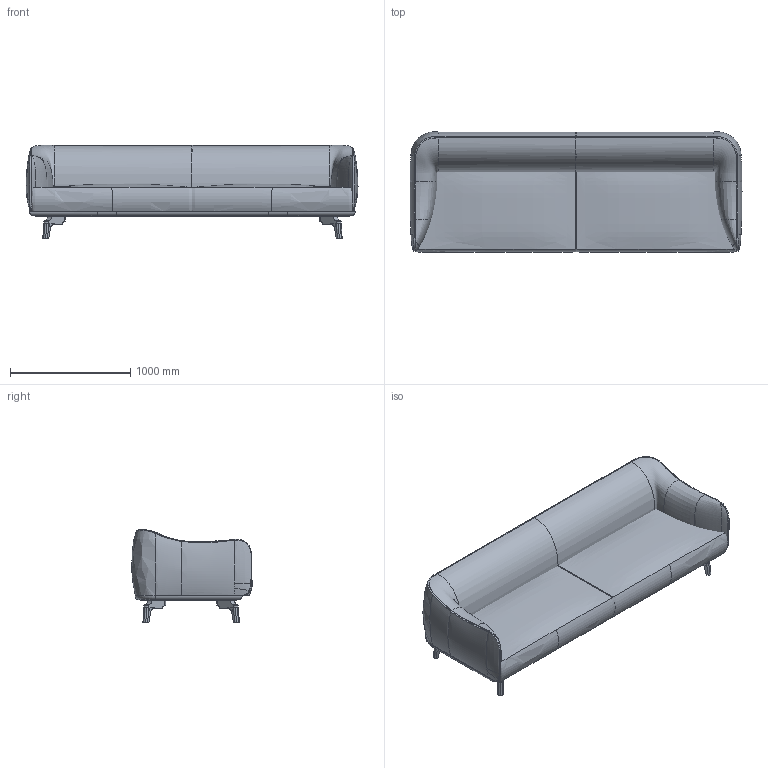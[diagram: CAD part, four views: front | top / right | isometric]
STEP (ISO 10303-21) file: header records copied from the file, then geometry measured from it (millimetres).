
FILE_DESCRIPTION(/* description */ (''),/* implementation_level */ '2;1');
FILE_NAME(/* name */ 'C:\Users\ronnie\Desktop\59030 DRIVE cm278.stp',/* time_stamp */ '2016-07-25T10:26:14+02:00',/* author */ ('ronnie'),/* organization */ (''),/* preprocessor_version */ 'ST-DEVELOPER v16.5',/* originating_system */ 'AutoCAD Mechanical',/* authorisation */ '');
FILE_SCHEMA (('AUTOMOTIVE_DESIGN { 1 0 10303 214 3 1 1 }'));
Length unit declared in the file: millimetre
Products named in the file (2): Product; curve_set_0
Assembly tree (1 placements, depth 2):
  Product
    curve_set_0
Bounding box: 2760.51 x 1001.04 x 774.25 mm (x, y, z)
Volume: 468397562 mm3; surface area: 16923981.4 mm2
Topology: 12 solids, 18 shells, 444 faces, 1071 edges, 667 vertices
Faces by surface type: bspline 158, cylinder 142, plane 130, torus 8, cone 6
Entity records: 78372 total; most frequent: CARTESIAN_POINT 68741, ORIENTED_EDGE 2060, DIRECTION 1714, EDGE_CURVE 1060, VERTEX_POINT 666, AXIS2_PLACEMENT_3D 623, EDGE_LOOP 504, LINE 468
